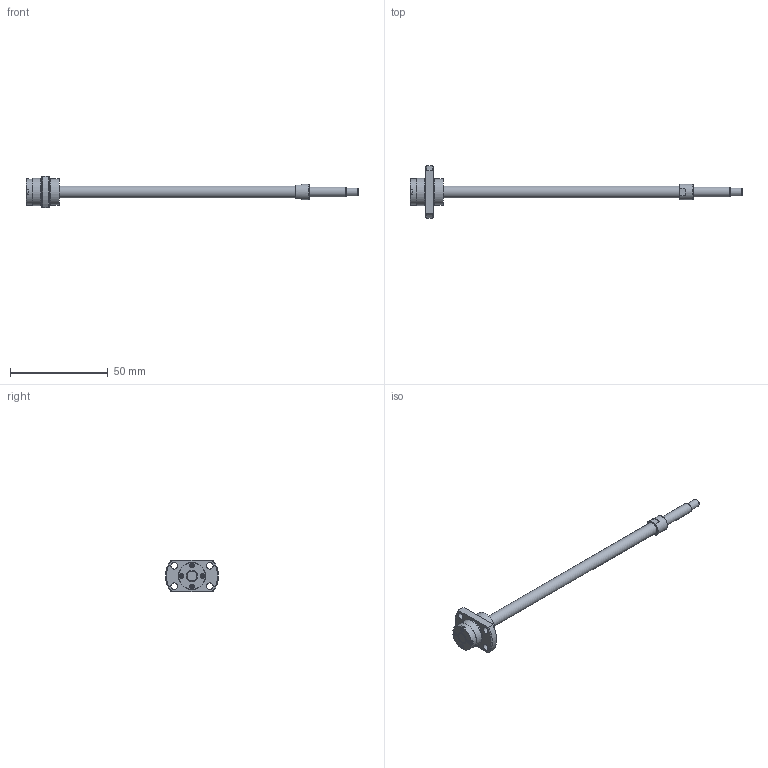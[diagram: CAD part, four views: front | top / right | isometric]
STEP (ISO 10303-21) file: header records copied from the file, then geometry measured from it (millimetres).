
FILE_DESCRIPTION( ( 'STEP AP203' ), '1' );
FILE_NAME( 'e:/temp/worker_65/temp/exporttempdir_5788_94_95hox/format_0/SG0606-134R170C5A1X(0).stp', '2021-10-19T02:43:29', ( 'License CC BY-ND 4.0' ), ( 'CADENAS' ), ' ', 'PARTsolutions', ' ' );
FILE_SCHEMA( ( 'CONFIG_CONTROL_DESIGN' ) );
Length unit declared in the file: millimetre
Products named in the file (3): SG0606-134R170C5A1X(0); _SG0606-134R170C5A_shaft; _SG0606 C5_nut
Assembly tree (2 placements, depth 2):
  SG0606-134R170C5A1X(0)
    _SG0606-134R170C5A_shaft
    _SG0606 C5_nut
Bounding box: 170 x 27 x 16 mm (x, y, z)
Volume: 7590.5 mm3; surface area: 5332.9 mm2
Topology: 2 solids, 2 shells, 99 faces, 228 edges, 149 vertices
Faces by surface type: plane 62, cylinder 24, cone 12, torus 1
Full cylindrical faces by diameter (mm): 2.25 x4, 3.4 x4, 4 x1, 5 x1, 6 x2, 8 x1, 13.6 x3, 14 x2
Entity records: 2784 total; most frequent: CARTESIAN_POINT 472, DIRECTION 466, ORIENTED_EDGE 398, EDGE_CURVE 199, AXIS2_PLACEMENT_3D 173, EDGE_LOOP 152, VERTEX_POINT 147, LINE 120
